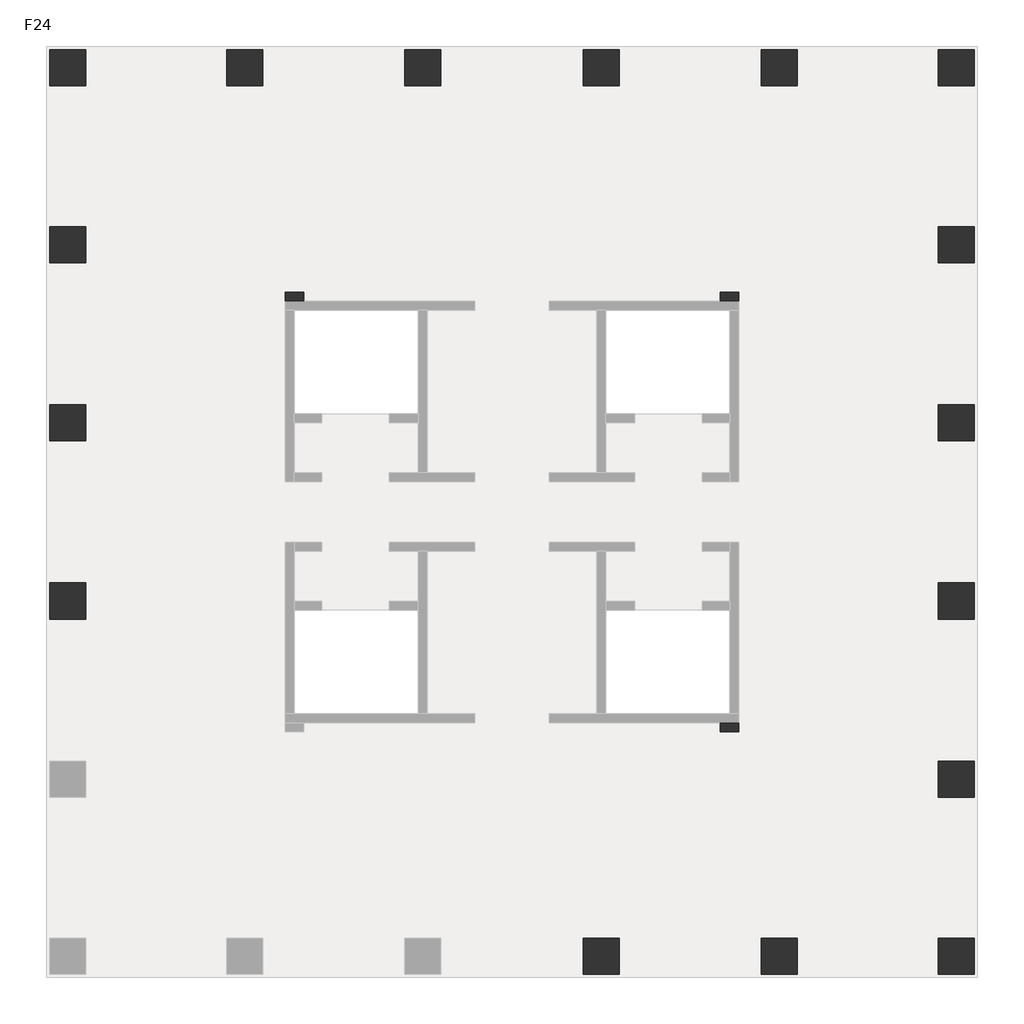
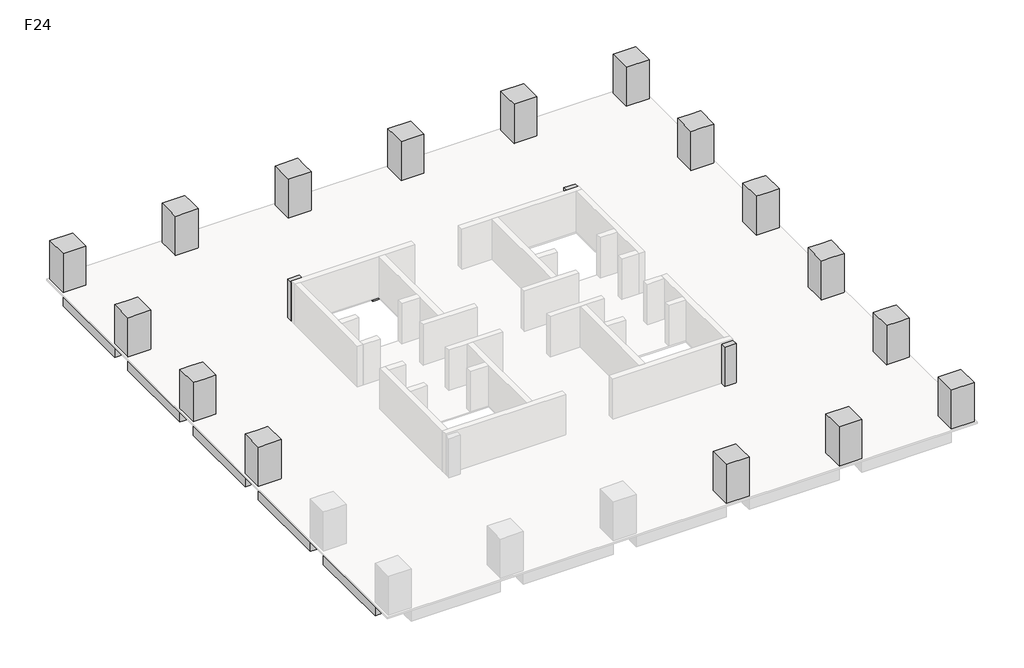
# One storey, part 2 of 2: 19 columns, 17 beams.
"""IFC4 building model written with IfcOpenShell, lengths in millimetres."""

from ifc_helpers import new_model, si_unit, frame, origin, place, context, project, spatial, polyline, outline, extrude, faceted_brep, element, save

model = new_model("IFC4")

# Units and contexts
model_context = context("Model", 3, world=origin())
ifc_project = project(units=[si_unit("LENGTHUNIT", "METRE", prefix="MILLI")], contexts=[model_context])

# Site, building, storey
site = spatial("IfcSite", under=ifc_project)
building = spatial("IfcBuilding", under=site)
storey = spatial("IfcBuildingStorey", under=building, Name="F24", Elevation=90000.0)

# Beams
placement = place(None, origin())
element("IfcBeam", 1, ObjectType="混凝土 - 矩形梁 : KL(5)-800x1000", at=placement, inside=storey, context=model_context, shape_type="SweptSolid", body=[
    extrude(outline(polyline([(25327.3257831, 27051.0498658), (25327.3257831, 26251.0498658), (19077.3257831, 26251.0498658), (19077.3257831, 27051.0498658), (25327.3257831, 27051.0498658)])), frame((0.0, 0.0, 89000.0), z_axis=(0.0, 0.0, 1.0), x_axis=(1.0, 0.0, 0.0)), (0.0, 0.0, 1.0), 900.0),
    extrude(outline(polyline([(-12472.6742169, 26251.0498658), (-12472.6742169, 27051.0498658), (-6222.6742169, 27051.0498658), (-6222.6742169, 26251.0498658), (-12472.6742169, 26251.0498658)])), frame((0.0, 0.0, 89000.0), z_axis=(0.0, 0.0, 1.0), x_axis=(1.0, 0.0, 0.0)), (0.0, 0.0, 1.0), 900.0),
    extrude(outline(polyline([(-4622.6742169, 26251.0498658), (-4622.6742169, 27051.0498658), (1677.3257831, 27051.0498658), (1677.3257831, 26251.0498658), (-4622.6742169, 26251.0498658)])), frame((0.0, 0.0, 89000.0), z_axis=(0.0, 0.0, 1.0), x_axis=(1.0, 0.0, 0.0)), (0.0, 0.0, 1.0), 900.0),
    extrude(outline(polyline([(3277.3257831, 26251.0498658), (3277.3257831, 27051.0498658), (9577.3257831, 27051.0498658), (9577.3257831, 26251.0498658), (3277.3257831, 26251.0498658)])), frame((0.0, 0.0, 89000.0), z_axis=(0.0, 0.0, 1.0), x_axis=(1.0, 0.0, 0.0)), (0.0, 0.0, 1.0), 900.0),
    extrude(outline(polyline([(11177.3257831, 26251.0498658), (11177.3257831, 27051.0498658), (17477.3257831, 27051.0498658), (17477.3257831, 26251.0498658), (11177.3257831, 26251.0498658)])), frame((0.0, 0.0, 89000.0), z_axis=(0.0, 0.0, 1.0), x_axis=(1.0, 0.0, 0.0)), (0.0, 0.0, 1.0), 900.0),
])
element("IfcBeam", 2, ObjectType="混凝土 - 矩形梁 : KL(5)-800x1000", at=placement, inside=storey, context=model_context, shape_type="SweptSolid", body=[
    extrude(outline(polyline([(26927.3257831, -12348.9501342), (26127.3257831, -12348.9501342), (26127.3257831, -6098.9501342), (26927.3257831, -6098.9501342), (26927.3257831, -12348.9501342)])), frame((0.0, 0.0, 89000.0), z_axis=(0.0, 0.0, 1.0), x_axis=(1.0, 0.0, 0.0)), (0.0, 0.0, 1.0), 900.0),
    extrude(outline(polyline([(26127.3257831, 25451.0498658), (26927.3257831, 25451.0498658), (26927.3257831, 19201.0498658), (26127.3257831, 19201.0498658), (26127.3257831, 25451.0498658)])), frame((0.0, 0.0, 89000.0), z_axis=(0.0, 0.0, 1.0), x_axis=(1.0, 0.0, 0.0)), (0.0, 0.0, 1.0), 900.0),
    extrude(outline(polyline([(26127.3257831, 17601.0498658), (26927.3257831, 17601.0498658), (26927.3257831, 11301.0498658), (26127.3257831, 11301.0498658), (26127.3257831, 17601.0498658)])), frame((0.0, 0.0, 89000.0), z_axis=(0.0, 0.0, 1.0), x_axis=(1.0, 0.0, 0.0)), (0.0, 0.0, 1.0), 900.0),
    extrude(outline(polyline([(26127.3257831, 9701.0498658), (26927.3257831, 9701.0498658), (26927.3257831, 3401.0498658), (26127.3257831, 3401.0498658), (26127.3257831, 9701.0498658)])), frame((0.0, 0.0, 89000.0), z_axis=(0.0, 0.0, 1.0), x_axis=(1.0, 0.0, 0.0)), (0.0, 0.0, 1.0), 900.0),
    extrude(outline(polyline([(26127.3257831, 1801.0498658), (26927.3257831, 1801.0498658), (26927.3257831, -4498.9501342), (26127.3257831, -4498.9501342), (26127.3257831, 1801.0498658)])), frame((0.0, 0.0, 89000.0), z_axis=(0.0, 0.0, 1.0), x_axis=(1.0, 0.0, 0.0)), (0.0, 0.0, 1.0), 900.0),
])
element("IfcBeam", 3, ObjectType="混凝土 - 矩形梁 : KL(5)-800x1000", at=placement, inside=storey, context=model_context, shape_type="SweptSolid", body=[
    extrude(outline(polyline([(-14072.6742169, 25451.0498658), (-13272.6742169, 25451.0498658), (-13272.6742169, 19201.0498658), (-14072.6742169, 19201.0498658), (-14072.6742169, 25451.0498658)])), frame((0.0, 0.0, 89000.0), z_axis=(0.0, 0.0, 1.0), x_axis=(1.0, 0.0, 0.0)), (0.0, 0.0, 1.0), 900.0),
    extrude(outline(polyline([(-13272.6742169, -12348.9501342), (-14072.6742169, -12348.9501342), (-14072.6742169, -6098.9501342), (-13272.6742169, -6098.9501342), (-13272.6742169, -12348.9501342)])), frame((0.0, 0.0, 89000.0), z_axis=(0.0, 0.0, 1.0), x_axis=(1.0, 0.0, 0.0)), (0.0, 0.0, 1.0), 900.0),
    extrude(outline(polyline([(-14072.6742169, 17601.0498658), (-13272.6742169, 17601.0498658), (-13272.6742169, 11301.0498658), (-14072.6742169, 11301.0498658), (-14072.6742169, 17601.0498658)])), frame((0.0, 0.0, 89000.0), z_axis=(0.0, 0.0, 1.0), x_axis=(1.0, 0.0, 0.0)), (0.0, 0.0, 1.0), 900.0),
    extrude(outline(polyline([(-14072.6742169, 9701.0498658), (-13272.6742169, 9701.0498658), (-13272.6742169, 3401.0498658), (-14072.6742169, 3401.0498658), (-14072.6742169, 9701.0498658)])), frame((0.0, 0.0, 89000.0), z_axis=(0.0, 0.0, 1.0), x_axis=(1.0, 0.0, 0.0)), (0.0, 0.0, 1.0), 900.0),
    extrude(outline(polyline([(-14072.6742169, 1801.0498658), (-13272.6742169, 1801.0498658), (-13272.6742169, -4498.9501342), (-14072.6742169, -4498.9501342), (-14072.6742169, 1801.0498658)])), frame((0.0, 0.0, 89000.0), z_axis=(0.0, 0.0, 1.0), x_axis=(1.0, 0.0, 0.0)), (0.0, 0.0, 1.0), 900.0),
])
element("IfcBeam", 4, ObjectType="混凝土 - 矩形梁 : L1-800x500", at=placement, inside=storey, context=model_context, shape_type="SweptSolid", body=[
    extrude(outline(polyline([(-12472.6742169, 2201.0498658), (-12472.6742169, 3001.0498658), (-3622.6742169, 3001.0498658), (-3622.6742169, 2201.0498658), (-12472.6742169, 2201.0498658)])), frame((0.0, 0.0, 89500.0), z_axis=(0.0, 0.0, 1.0), x_axis=(1.0, 0.0, 0.0)), (0.0, 0.0, 1.0), 400.0),
])
element("IfcBeam", 5, ObjectType="混凝土 - 矩形梁 : L1-800x500", at=placement, inside=storey, context=model_context, shape_type="SweptSolid", body=[
    extrude(outline(polyline([(-12472.6742169, 10101.0498658), (-12472.6742169, 10901.0498658), (-3622.6742169, 10901.0498658), (-3622.6742169, 10101.0498658), (-12472.6742169, 10101.0498658)])), frame((0.0, 0.0, 89500.0), z_axis=(0.0, 0.0, 1.0), x_axis=(1.0, 0.0, 0.0)), (0.0, 0.0, 1.0), 400.0),
])
element("IfcBeam", 6, ObjectType="混凝土 - 矩形梁 : L1-800x500", at=placement, inside=storey, context=model_context, shape_type="Brep", body=[
    faceted_brep([(-12472.6742169, 17789.85471, 89500.0), (-3622.6742169, 15588.3621727, 89500.0), (-3622.6742169, 15588.3621727, 89900.0), (-12472.6742169, 17789.85471, 89900.0), (-3173.6696907, 16301.0498658, 89500.0), (-3622.6742169, 16301.0498658, 89500.0), (-3622.6742169, 15901.0498658, 89500.0), (-12472.6742169, 18614.2350714, 89500.0), (-3746.9473979, 16443.6562607, 89500.0), (-12472.6742169, 18614.2350714, 89900.0), (-3746.9473979, 16443.6562607, 89900.0), (-3173.6696907, 16301.0498658, 89900.0), (-3622.6742169, 16301.0498658, 89900.0)], [[[0, 1, 2, 3]], [[4, 5, 6, 1, 0, 7, 8]], [[4, 8, 7, 9, 10, 11]], [[6, 5, 12, 2, 1]], [[5, 4, 11, 12]], [[7, 0, 3, 9]], [[3, 2, 12, 11, 10, 9]]]),
])
element("IfcBeam", 7, ObjectType="混凝土 - 矩形梁 : L1-800x500", at=placement, inside=storey, context=model_context, shape_type="SweptSolid", body=[
    extrude(outline(polyline([(-3173.6696907, 16301.0498658), (-3746.9473979, 16443.6562607), (-5661.5624638, 25451.0498658), (-4843.6893517, 25451.0498658), (-2898.7618154, 16301.0498658), (-3173.6696907, 16301.0498658)])), frame((0.0, 0.0, 89500.0), z_axis=(0.0, 0.0, 1.0), x_axis=(1.0, 0.0, 0.0)), (0.0, 0.0, 1.0), 400.0),
])
element("IfcBeam", 8, ObjectType="混凝土 - 矩形梁 : L1-800x500", at=placement, inside=storey, context=model_context, shape_type="SweptSolid", body=[
    extrude(outline(polyline([(2077.3257831, 25451.0498658), (2877.3257831, 25451.0498658), (2877.3257831, 15901.0498658), (2077.3257831, 15901.0498658), (2077.3257831, 25451.0498658)])), frame((0.0, 0.0, 89500.0), z_axis=(0.0, 0.0, 1.0), x_axis=(1.0, 0.0, 0.0)), (0.0, 0.0, 1.0), 400.0),
])
element("IfcBeam", 9, ObjectType="混凝土 - 矩形梁 : L1-800x500", at=placement, inside=storey, context=model_context, shape_type="SweptSolid", body=[
    extrude(outline(polyline([(9977.3257831, 25451.0498658), (10777.3257831, 25451.0498658), (10777.3257831, 15901.0498658), (9977.3257831, 15901.0498658), (9977.3257831, 25451.0498658)])), frame((0.0, 0.0, 89500.0), z_axis=(0.0, 0.0, 1.0), x_axis=(1.0, 0.0, 0.0)), (0.0, 0.0, 1.0), 400.0),
])
element("IfcBeam", 10, ObjectType="混凝土 - 矩形梁 : L1-800x500", at=placement, inside=storey, context=model_context, shape_type="SweptSolid", body=[
    extrude(outline(polyline([(2877.3257831, -12348.9501342), (2077.3257831, -12348.9501342), (2077.3257831, -2798.9501342), (2877.3257831, -2798.9501342), (2877.3257831, -12348.9501342)])), frame((0.0, 0.0, 89500.0), z_axis=(0.0, 0.0, 1.0), x_axis=(1.0, 0.0, 0.0)), (0.0, 0.0, 1.0), 400.0),
])
element("IfcBeam", 11, ObjectType="混凝土 - 矩形梁 : L1-800x500", at=placement, inside=storey, context=model_context, shape_type="SweptSolid", body=[
    extrude(outline(polyline([(10777.3257831, -12348.9501342), (9977.3257831, -12348.9501342), (9977.3257831, -2798.9501342), (10777.3257831, -2798.9501342), (10777.3257831, -12348.9501342)])), frame((0.0, 0.0, 89500.0), z_axis=(0.0, 0.0, 1.0), x_axis=(1.0, 0.0, 0.0)), (0.0, 0.0, 1.0), 400.0),
])
element("IfcBeam", 12, ObjectType="混凝土 - 矩形梁 : L1-800x500", at=placement, inside=storey, context=model_context, shape_type="Brep", body=[
    faceted_brep([(25327.3257831, -4687.7549784, 89500.0), (16477.3257831, -2486.2624411, 89500.0), (16477.3257831, -2486.2624411, 89900.0), (25327.3257831, -4687.7549784, 89900.0), (16028.3212569, -3198.9501342, 89500.0), (16477.3257831, -3198.9501342, 89500.0), (16477.3257831, -2798.9501342, 89500.0), (25327.3257831, -5512.1353397, 89500.0), (16601.5989641, -3341.556529, 89500.0), (25327.3257831, -5512.1353397, 89900.0), (16601.5989641, -3341.556529, 89900.0), (16028.3212569, -3198.9501342, 89900.0), (16477.3257831, -3198.9501342, 89900.0)], [[[0, 1, 2, 3]], [[4, 5, 6, 1, 0, 7, 8]], [[4, 8, 7, 9, 10, 11]], [[6, 5, 12, 2, 1]], [[5, 4, 11, 12]], [[7, 0, 3, 9]], [[3, 2, 12, 11, 10, 9]]]),
])
element("IfcBeam", 13, ObjectType="混凝土 - 矩形梁 : L1-800x500", at=placement, inside=storey, context=model_context, shape_type="SweptSolid", body=[
    extrude(outline(polyline([(16028.3212569, -3198.9501342), (16601.5989641, -3341.556529), (18516.21403, -12348.9501342), (17698.3409179, -12348.9501342), (15753.4133817, -3198.9501342), (16028.3212569, -3198.9501342)])), frame((0.0, 0.0, 89500.0), z_axis=(0.0, 0.0, 1.0), x_axis=(1.0, 0.0, 0.0)), (0.0, 0.0, 1.0), 400.0),
])
element("IfcBeam", 14, ObjectType="混凝土 - 矩形梁 : L1-800x500", at=placement, inside=storey, context=model_context, shape_type="SweptSolid", body=[
    extrude(outline(polyline([(25327.3257831, 3001.0498658), (25327.3257831, 2201.0498658), (16477.3257831, 2201.0498658), (16477.3257831, 3001.0498658), (25327.3257831, 3001.0498658)])), frame((0.0, 0.0, 89500.0), z_axis=(0.0, 0.0, 1.0), x_axis=(1.0, 0.0, 0.0)), (0.0, 0.0, 1.0), 400.0),
])
element("IfcBeam", 15, ObjectType="混凝土 - 矩形梁 : L1-800x500", at=placement, inside=storey, context=model_context, shape_type="SweptSolid", body=[
    extrude(outline(polyline([(25327.3257831, 10901.0498658), (25327.3257831, 10101.0498658), (16477.3257831, 10101.0498658), (16477.3257831, 10901.0498658), (25327.3257831, 10901.0498658)])), frame((0.0, 0.0, 89500.0), z_axis=(0.0, 0.0, 1.0), x_axis=(1.0, 0.0, 0.0)), (0.0, 0.0, 1.0), 400.0),
])
element("IfcBeam", 16, ObjectType="混凝土 - 矩形梁 : L1-800x500", at=placement, inside=storey, context=model_context, shape_type="Brep", body=[
    faceted_brep([(25327.3257831, 18610.6867312, 89500.0), (16590.8993897, 16393.3196262, 89500.0), (16227.3565337, 16301.0498658, 89500.0), (16227.3565337, 16301.0498658, 89900.0), (16590.8993897, 16393.3196262, 89900.0), (25327.3257831, 18610.6867312, 89900.0), (16477.3257831, 16301.0498658, 89500.0), (25327.3257831, 17785.3216299, 89500.0), (16477.3257831, 15539.1287365, 89500.0), (16477.3257831, 15901.0498658, 89500.0), (25327.3257831, 17785.3216299, 89900.0), (16477.3257831, 15539.1287365, 89900.0), (16477.3257831, 16301.0498658, 89900.0)], [[[0, 1, 2, 3, 4, 5]], [[6, 2, 1, 0, 7, 8, 9]], [[8, 7, 10, 11]], [[9, 8, 11, 12, 6]], [[2, 6, 12, 3]], [[7, 0, 5, 10]], [[5, 4, 3, 12, 11, 10]]]),
])
element("IfcBeam", 17, ObjectType="混凝土 - 矩形梁 : L1-800x500", at=placement, inside=storey, context=model_context, shape_type="SweptSolid", body=[
    extrude(outline(polyline([(16590.8993897, 16393.3196262), (16227.3565337, 16301.0498658), (15753.4133817, 16301.0498658), (17698.3409179, 25451.0498658), (18516.21403, 25451.0498658), (16590.8993897, 16393.3196262)])), frame((0.0, 0.0, 89500.0), z_axis=(0.0, 0.0, 1.0), x_axis=(1.0, 0.0, 0.0)), (0.0, 0.0, 1.0), 400.0),
])

# Columns
element("IfcColumn", 18, ObjectType="混凝土 - 矩形 - 柱 : Z1-1600x1600", at=placement, inside=storey, context=model_context, shape_type="SweptSolid", body=[
    extrude(outline(polyline([(-12472.6742169, 27051.0498658), (-12472.6742169, 25451.0498658), (-14072.6742169, 25451.0498658), (-14072.6742169, 27051.0498658), (-12472.6742169, 27051.0498658)])), frame((0.0, 0.0, 90000.0), z_axis=(0.0, 0.0, 1.0), x_axis=(1.0, 0.0, 0.0)), (0.0, 0.0, 1.0), 2900.0),
])
element("IfcColumn", 19, ObjectType="混凝土 - 矩形 - 柱 : Z1-1600x1600", at=placement, inside=storey, context=model_context, shape_type="Brep", body=[
    faceted_brep([(-4622.6742169, 27051.0498658, 90000.0), (-4622.6742169, 25451.0498658, 90000.0), (-6222.6742169, 25451.0498658, 90000.0), (-6222.6742169, 27051.0498658, 90000.0), (-4622.6742169, 27051.0498658, 92000.0), (-4622.6742169, 27051.0498658, 92900.0), (-4622.6742169, 26251.0498658, 92900.0), (-4622.6742169, 25451.0498658, 92900.0), (-6222.6742169, 25451.0498658, 92900.0), (-6222.6742169, 26251.0498658, 92900.0), (-6222.6742169, 27051.0498658, 92900.0), (-6222.6742169, 27051.0498658, 92000.0)], [[[0, 1, 2, 3]], [[1, 0, 4, 5, 6, 7]], [[2, 1, 7, 8]], [[3, 2, 8, 9, 10, 11]], [[0, 3, 11, 10, 5, 4]], [[7, 6, 5, 10, 9, 8]]]),
])
element("IfcColumn", 20, ObjectType="混凝土 - 矩形 - 柱 : Z1-1600x1600", at=placement, inside=storey, context=model_context, shape_type="Brep", body=[
    faceted_brep([(-12472.6742169, 19201.0498658, 90000.0), (-12472.6742169, 17601.0498658, 90000.0), (-14072.6742169, 17601.0498658, 90000.0), (-14072.6742169, 19201.0498658, 90000.0), (-12472.6742169, 19201.0498658, 92900.0), (-12472.6742169, 17601.0498658, 92900.0), (-13272.6742169, 17601.0498658, 92900.0), (-14072.6742169, 17601.0498658, 92900.0), (-14072.6742169, 17601.0498658, 92000.0), (-14072.6742169, 19201.0498658, 92900.0), (-14072.6742169, 19201.0498658, 92000.0), (-13272.6742169, 19201.0498658, 92900.0)], [[[0, 1, 2, 3]], [[1, 0, 4, 5]], [[2, 1, 5, 6, 7, 8]], [[3, 2, 8, 7, 9, 10]], [[0, 3, 10, 9, 11, 4]], [[5, 4, 11, 9, 7, 6]]]),
])
element("IfcColumn", 21, ObjectType="混凝土 - 矩形 - 柱 : Z1-1600x1600", at=placement, inside=storey, context=model_context, shape_type="Brep", body=[
    faceted_brep([(-12472.6742169, 11301.0498658, 90000.0), (-12472.6742169, 9701.0498658, 90000.0), (-14072.6742169, 9701.0498658, 90000.0), (-14072.6742169, 11301.0498658, 90000.0), (-12472.6742169, 11301.0498658, 92900.0), (-12472.6742169, 9701.0498658, 92900.0), (-13272.6742169, 9701.0498658, 92900.0), (-14072.6742169, 9701.0498658, 92900.0), (-14072.6742169, 9701.0498658, 92000.0), (-14072.6742169, 11301.0498658, 92900.0), (-14072.6742169, 11301.0498658, 92000.0), (-13272.6742169, 11301.0498658, 92900.0)], [[[0, 1, 2, 3]], [[1, 0, 4, 5]], [[2, 1, 5, 6, 7, 8]], [[3, 2, 8, 7, 9, 10]], [[0, 3, 10, 9, 11, 4]], [[5, 4, 11, 9, 7, 6]]]),
])
element("IfcColumn", 22, ObjectType="混凝土 - 矩形 - 柱 : Z1-1600x1600", at=placement, inside=storey, context=model_context, shape_type="Brep", body=[
    faceted_brep([(-12472.6742169, 3401.0498658, 90000.0), (-12472.6742169, 1801.0498658, 90000.0), (-14072.6742169, 1801.0498658, 90000.0), (-14072.6742169, 3401.0498658, 90000.0), (-12472.6742169, 3401.0498658, 92900.0), (-12472.6742169, 1801.0498658, 92900.0), (-13272.6742169, 1801.0498658, 92900.0), (-14072.6742169, 1801.0498658, 92900.0), (-14072.6742169, 1801.0498658, 92000.0), (-14072.6742169, 3401.0498658, 92900.0), (-14072.6742169, 3401.0498658, 92000.0), (-13272.6742169, 3401.0498658, 92900.0)], [[[0, 1, 2, 3]], [[1, 0, 4, 5]], [[2, 1, 5, 6, 7, 8]], [[3, 2, 8, 7, 9, 10]], [[0, 3, 10, 9, 11, 4]], [[5, 4, 11, 9, 7, 6]]]),
])
element("IfcColumn", 23, ObjectType="混凝土 - 矩形 - 柱 : Z1-1600x1600", at=placement, inside=storey, context=model_context, shape_type="SweptSolid", body=[
    extrude(outline(polyline([(25327.3257831, 27051.0498658), (26927.3257831, 27051.0498658), (26927.3257831, 25451.0498658), (25327.3257831, 25451.0498658), (25327.3257831, 27051.0498658)])), frame((0.0, 0.0, 90000.0), z_axis=(0.0, 0.0, 1.0), x_axis=(1.0, 0.0, 0.0)), (0.0, 0.0, 1.0), 2900.0),
])
element("IfcColumn", 24, ObjectType="混凝土 - 矩形 - 柱 : Z1-1600x1600", at=placement, inside=storey, context=model_context, shape_type="Brep", body=[
    faceted_brep([(25327.3257831, 19201.0498658, 90000.0), (26927.3257831, 19201.0498658, 90000.0), (26927.3257831, 17601.0498658, 90000.0), (25327.3257831, 17601.0498658, 90000.0), (25327.3257831, 17601.0498658, 92900.0), (25327.3257831, 19201.0498658, 92900.0), (26927.3257831, 17601.0498658, 92000.0), (26927.3257831, 17601.0498658, 92900.0), (26127.3257831, 17601.0498658, 92900.0), (26927.3257831, 19201.0498658, 92000.0), (26927.3257831, 19201.0498658, 92900.0), (26127.3257831, 19201.0498658, 92900.0)], [[[0, 1, 2, 3]], [[0, 3, 4, 5]], [[3, 2, 6, 7, 8, 4]], [[2, 1, 9, 10, 7, 6]], [[1, 0, 5, 11, 10, 9]], [[5, 4, 8, 7, 10, 11]]]),
])
element("IfcColumn", 25, ObjectType="混凝土 - 矩形 - 柱 : Z1-1600x1600", at=placement, inside=storey, context=model_context, shape_type="Brep", body=[
    faceted_brep([(25327.3257831, 11301.0498658, 90000.0), (26927.3257831, 11301.0498658, 90000.0), (26927.3257831, 9701.0498658, 90000.0), (25327.3257831, 9701.0498658, 90000.0), (25327.3257831, 9701.0498658, 92900.0), (25327.3257831, 11301.0498658, 92900.0), (26927.3257831, 9701.0498658, 92000.0), (26927.3257831, 9701.0498658, 92900.0), (26127.3257831, 9701.0498658, 92900.0), (26927.3257831, 11301.0498658, 92000.0), (26927.3257831, 11301.0498658, 92900.0), (26127.3257831, 11301.0498658, 92900.0)], [[[0, 1, 2, 3]], [[0, 3, 4, 5]], [[3, 2, 6, 7, 8, 4]], [[2, 1, 9, 10, 7, 6]], [[1, 0, 5, 11, 10, 9]], [[5, 4, 8, 7, 10, 11]]]),
])
element("IfcColumn", 26, ObjectType="混凝土 - 矩形 - 柱 : Z1-1600x1600", at=placement, inside=storey, context=model_context, shape_type="Brep", body=[
    faceted_brep([(25327.3257831, 3401.0498658, 90000.0), (26927.3257831, 3401.0498658, 90000.0), (26927.3257831, 1801.0498658, 90000.0), (25327.3257831, 1801.0498658, 90000.0), (25327.3257831, 1801.0498658, 92900.0), (25327.3257831, 3401.0498658, 92900.0), (26927.3257831, 1801.0498658, 92000.0), (26927.3257831, 1801.0498658, 92900.0), (26127.3257831, 1801.0498658, 92900.0), (26927.3257831, 3401.0498658, 92000.0), (26927.3257831, 3401.0498658, 92900.0), (26127.3257831, 3401.0498658, 92900.0)], [[[0, 1, 2, 3]], [[0, 3, 4, 5]], [[3, 2, 6, 7, 8, 4]], [[2, 1, 9, 10, 7, 6]], [[1, 0, 5, 11, 10, 9]], [[5, 4, 8, 7, 10, 11]]]),
])
element("IfcColumn", 27, ObjectType="混凝土 - 矩形 - 柱 : Z1-1600x1600", at=placement, inside=storey, context=model_context, shape_type="Brep", body=[
    faceted_brep([(25327.3257831, -4498.9501342, 90000.0), (26927.3257831, -4498.9501342, 90000.0), (26927.3257831, -6098.9501342, 90000.0), (25327.3257831, -6098.9501342, 90000.0), (25327.3257831, -6098.9501342, 92900.0), (25327.3257831, -4498.9501342, 92900.0), (26927.3257831, -6098.9501342, 92000.0), (26927.3257831, -6098.9501342, 92900.0), (26127.3257831, -6098.9501342, 92900.0), (26927.3257831, -4498.9501342, 92000.0), (26927.3257831, -4498.9501342, 92900.0), (26127.3257831, -4498.9501342, 92900.0)], [[[0, 1, 2, 3]], [[0, 3, 4, 5]], [[3, 2, 6, 7, 8, 4]], [[2, 1, 9, 10, 7, 6]], [[1, 0, 5, 11, 10, 9]], [[5, 4, 8, 7, 10, 11]]]),
])
element("IfcColumn", 28, ObjectType="混凝土 - 矩形 - 柱 : Z1-1600x1600", at=placement, inside=storey, context=model_context, shape_type="SweptSolid", body=[
    extrude(outline(polyline([(25327.3257831, -12348.9501342), (26927.3257831, -12348.9501342), (26927.3257831, -13948.9501342), (25327.3257831, -13948.9501342), (25327.3257831, -12348.9501342)])), frame((0.0, 0.0, 90000.0), z_axis=(0.0, 0.0, 1.0), x_axis=(1.0, 0.0, 0.0)), (0.0, 0.0, 1.0), 2900.0),
])
element("IfcColumn", 29, ObjectType="混凝土 - 矩形 - 柱 : Z1-1600x1600", at=placement, inside=storey, context=model_context, shape_type="Brep", body=[
    faceted_brep([(3277.3257831, 27051.0498658, 90000.0), (3277.3257831, 25451.0498658, 90000.0), (1677.3257831, 25451.0498658, 90000.0), (1677.3257831, 27051.0498658, 90000.0), (3277.3257831, 27051.0498658, 92000.0), (3277.3257831, 27051.0498658, 92900.0), (3277.3257831, 26251.0498658, 92900.0), (3277.3257831, 25451.0498658, 92900.0), (1677.3257831, 25451.0498658, 92900.0), (1677.3257831, 26251.0498658, 92900.0), (1677.3257831, 27051.0498658, 92900.0), (1677.3257831, 27051.0498658, 92000.0)], [[[0, 1, 2, 3]], [[1, 0, 4, 5, 6, 7]], [[2, 1, 7, 8]], [[3, 2, 8, 9, 10, 11]], [[0, 3, 11, 10, 5, 4]], [[7, 6, 5, 10, 9, 8]]]),
])
element("IfcColumn", 30, ObjectType="混凝土 - 矩形 - 柱 : Z1-1600x1600", at=placement, inside=storey, context=model_context, shape_type="Brep", body=[
    faceted_brep([(11177.3257831, 27051.0498658, 90000.0), (11177.3257831, 25451.0498658, 90000.0), (9577.3257831, 25451.0498658, 90000.0), (9577.3257831, 27051.0498658, 90000.0), (11177.3257831, 27051.0498658, 92000.0), (11177.3257831, 27051.0498658, 92900.0), (11177.3257831, 26251.0498658, 92900.0), (11177.3257831, 25451.0498658, 92900.0), (9577.3257831, 25451.0498658, 92900.0), (9577.3257831, 26251.0498658, 92900.0), (9577.3257831, 27051.0498658, 92900.0), (9577.3257831, 27051.0498658, 92000.0)], [[[0, 1, 2, 3]], [[1, 0, 4, 5, 6, 7]], [[2, 1, 7, 8]], [[3, 2, 8, 9, 10, 11]], [[0, 3, 11, 10, 5, 4]], [[7, 6, 5, 10, 9, 8]]]),
])
element("IfcColumn", 31, ObjectType="混凝土 - 矩形 - 柱 : Z1-1600x1600", at=placement, inside=storey, context=model_context, shape_type="Brep", body=[
    faceted_brep([(19077.3257831, 27051.0498658, 90000.0), (19077.3257831, 25451.0498658, 90000.0), (17477.3257831, 25451.0498658, 90000.0), (17477.3257831, 27051.0498658, 90000.0), (19077.3257831, 27051.0498658, 92000.0), (19077.3257831, 27051.0498658, 92900.0), (19077.3257831, 26251.0498658, 92900.0), (19077.3257831, 25451.0498658, 92900.0), (17477.3257831, 25451.0498658, 92900.0), (17477.3257831, 26251.0498658, 92900.0), (17477.3257831, 27051.0498658, 92900.0), (17477.3257831, 27051.0498658, 92000.0)], [[[0, 1, 2, 3]], [[1, 0, 4, 5, 6, 7]], [[2, 1, 7, 8]], [[3, 2, 8, 9, 10, 11]], [[0, 3, 11, 10, 5, 4]], [[7, 6, 5, 10, 9, 8]]]),
])
element("IfcColumn", 32, ObjectType="混凝土 - 矩形 - 柱 : Z1-1600x1600", at=placement, inside=storey, context=model_context, shape_type="Brep", body=[
    faceted_brep([(11177.3257831, -12348.9501342, 90000.0), (11177.3257831, -13948.9501342, 90000.0), (9577.3257831, -13948.9501342, 90000.0), (9577.3257831, -12348.9501342, 90000.0), (11177.3257831, -12348.9501342, 92900.0), (11177.3257831, -13148.9501342, 92900.0), (11177.3257831, -13948.9501342, 92900.0), (11177.3257831, -13948.9501342, 92000.0), (9577.3257831, -13948.9501342, 92900.0), (9577.3257831, -13948.9501342, 92000.0), (9577.3257831, -13148.9501342, 92900.0), (9577.3257831, -12348.9501342, 92900.0)], [[[0, 1, 2, 3]], [[1, 0, 4, 5, 6, 7]], [[2, 1, 7, 6, 8, 9]], [[3, 2, 9, 8, 10, 11]], [[0, 3, 11, 4]], [[6, 5, 4, 11, 10, 8]]]),
])
element("IfcColumn", 33, ObjectType="混凝土 - 矩形 - 柱 : Z1-1600x1600", at=placement, inside=storey, context=model_context, shape_type="Brep", body=[
    faceted_brep([(19077.3257831, -12348.9501342, 90000.0), (19077.3257831, -13948.9501342, 90000.0), (17477.3257831, -13948.9501342, 90000.0), (17477.3257831, -12348.9501342, 90000.0), (19077.3257831, -12348.9501342, 92900.0), (19077.3257831, -13148.9501342, 92900.0), (19077.3257831, -13948.9501342, 92900.0), (19077.3257831, -13948.9501342, 92000.0), (17477.3257831, -13948.9501342, 92900.0), (17477.3257831, -13948.9501342, 92000.0), (17477.3257831, -13148.9501342, 92900.0), (17477.3257831, -12348.9501342, 92900.0)], [[[0, 1, 2, 3]], [[1, 0, 4, 5, 6, 7]], [[2, 1, 7, 6, 8, 9]], [[3, 2, 9, 8, 10, 11]], [[0, 3, 11, 4]], [[6, 5, 4, 11, 10, 8]]]),
])
element("IfcColumn", 34, ObjectType="混凝土 - 矩形 - 柱 : Z2-800x800", at=placement, inside=storey, context=model_context, shape_type="SweptSolid", body=[
    extrude(outline(polyline([(-3622.6742169, 16301.0498658), (-2822.6742169, 16301.0498658), (-2822.6742169, 15901.0498658), (-3622.6742169, 15901.0498658), (-3622.6742169, 16301.0498658)])), frame((0.0, 0.0, 90000.0), z_axis=(0.0, 0.0, 1.0), x_axis=(1.0, 0.0, 0.0)), (0.0, 0.0, 1.0), 2900.0),
])
element("IfcColumn", 35, ObjectType="混凝土 - 矩形 - 柱 : Z2-800x800", at=placement, inside=storey, context=model_context, shape_type="SweptSolid", body=[
    extrude(outline(polyline([(16477.3257831, -3198.9501342), (15677.3257831, -3198.9501342), (15677.3257831, -2798.9501342), (16477.3257831, -2798.9501342), (16477.3257831, -3198.9501342)])), frame((0.0, 0.0, 90000.0), z_axis=(0.0, 0.0, 1.0), x_axis=(1.0, 0.0, 0.0)), (0.0, 0.0, 1.0), 2900.0),
])
element("IfcColumn", 36, ObjectType="混凝土 - 矩形 - 柱 : Z2-800x800", at=placement, inside=storey, context=model_context, shape_type="SweptSolid", body=[
    extrude(outline(polyline([(15677.3257831, 16301.0498658), (16477.3257831, 16301.0498658), (16477.3257831, 15901.0498658), (15677.3257831, 15901.0498658), (15677.3257831, 16301.0498658)])), frame((0.0, 0.0, 90000.0), z_axis=(0.0, 0.0, 1.0), x_axis=(1.0, 0.0, 0.0)), (0.0, 0.0, 1.0), 2900.0),
])

save(model, "model.ifc")
